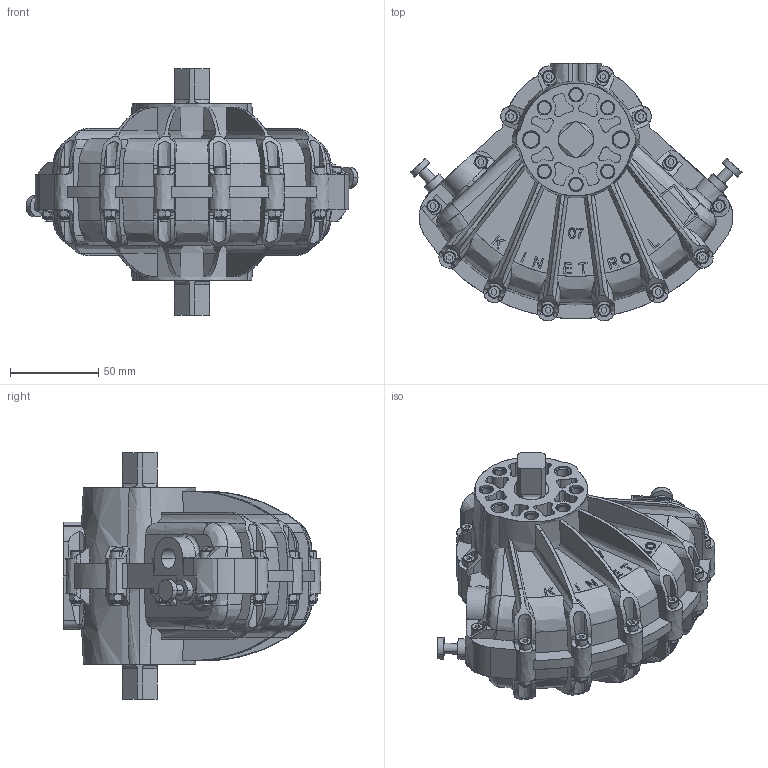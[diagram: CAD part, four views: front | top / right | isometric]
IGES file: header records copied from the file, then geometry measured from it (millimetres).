
Start section: Comment
Global section: file name: 074-100.igs; native system:  By Spatial Corp.; preprocessor: XPlus GENERIC/IGES 3.0; author: Author; organization: Title; date: 20080508.162902; units: inch
Bounding box: 188.2 x 146.09 x 140 mm (x, y, z)
Surface area: 110735 mm2 (no closed solid volume)
Topology: 0 solids, 0 shells, 1971 faces, 10390 edges, 10390 vertices
Faces by surface type: bspline 1971
